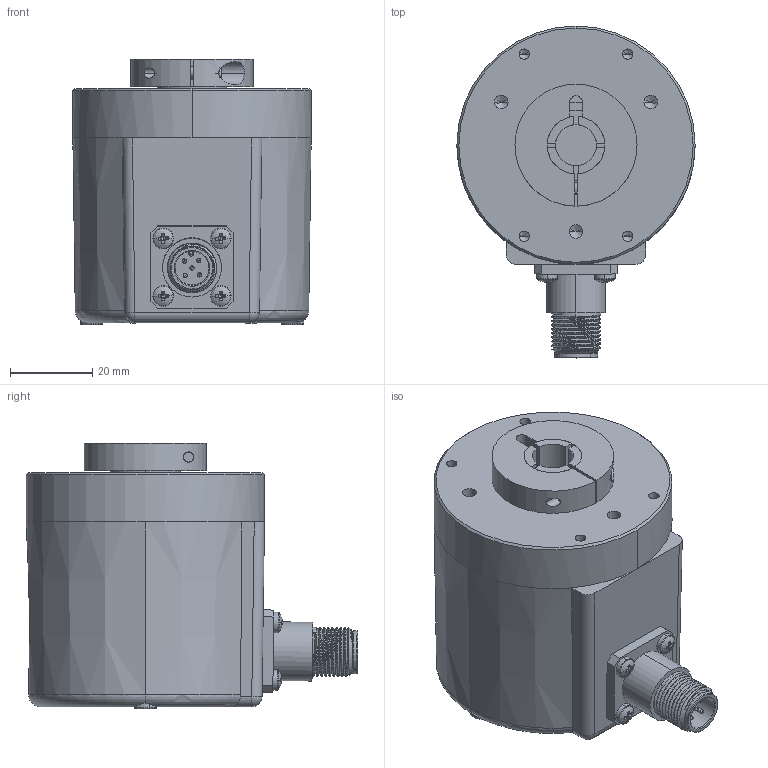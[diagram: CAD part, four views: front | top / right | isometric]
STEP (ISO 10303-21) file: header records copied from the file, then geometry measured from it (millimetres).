
FILE_DESCRIPTION (( 'STEP AP203' ), '1' );
FILE_NAME ('E58HM-ANA-1426-16-CBL.STEP', '2024-10-28T12:06:56', ( '' ), ( '' ), 'SwSTEP 2.0', 'SolidWorks 2023', '' );
FILE_SCHEMA (( 'CONFIG_CONTROL_DESIGN' ));
Length unit declared in the file: millimetre
Products named in the file (1): E58HM-ANA-1426-16-CBL
Bounding box: 58 x 80.73 x 64.5 mm (x, y, z)
Surface area: 23677.7 mm2 (no closed solid volume)
Topology: 0 solids, 42 shells, 759 faces, 1809 edges, 1107 vertices
Faces by surface type: cylinder 298, plane 243, cone 128, torus 55, sphere 22, bspline 13
Entity records: 24848 total; most frequent: CARTESIAN_POINT 7122, DIRECTION 3969, ORIENTED_EDGE 3512, EDGE_CURVE 1758, AXIS2_PLACEMENT_3D 1661, VERTEX_POINT 1097, CIRCLE 914, EDGE_LOOP 849
